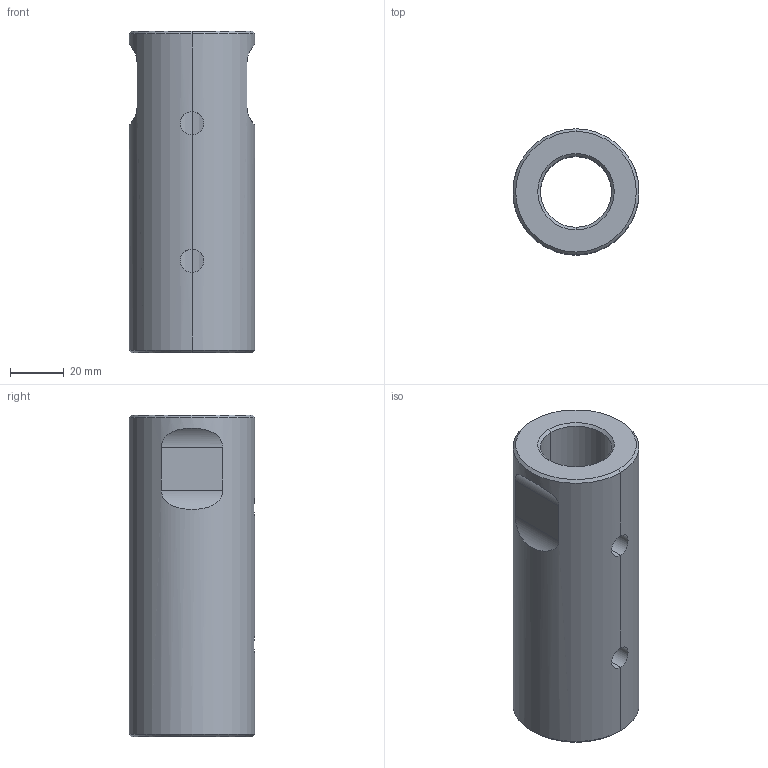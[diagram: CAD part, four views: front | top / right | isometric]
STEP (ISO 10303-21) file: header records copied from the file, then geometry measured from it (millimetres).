
FILE_DESCRIPTION (( 'STEP AP203' ), '1' );
FILE_NAME ('Spannschloss M30.STEP', '2018-02-22T10:00:26', ( 'install' ), ( 'Hewlett-Packard Company' ), 'SwSTEP 2.0', 'SolidWorks 2017', '' );
FILE_SCHEMA (( 'CONFIG_CONTROL_DESIGN' ));
Length unit declared in the file: millimetre
Products named in the file (1): Spannschloss M30
Bounding box: 47 x 47 x 120 mm (x, y, z)
Volume: 123396.4 mm3; surface area: 31516.1 mm2
Topology: 1 solids, 1 shells, 30 faces, 68 edges, 40 vertices
Faces by surface type: cylinder 16, cone 8, plane 6
Entity records: 1353 total; most frequent: CARTESIAN_POINT 599, DIRECTION 142, ORIENTED_EDGE 136, EDGE_CURVE 68, AXIS2_PLACEMENT_3D 55, VERTEX_POINT 40, EDGE_LOOP 36, LINE 32
